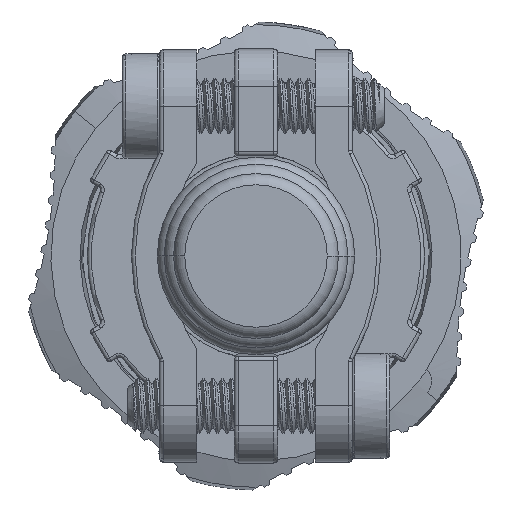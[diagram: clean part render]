
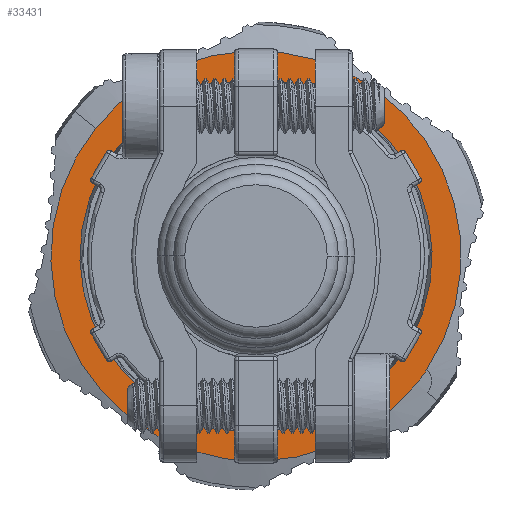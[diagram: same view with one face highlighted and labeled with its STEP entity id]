
A CAD part, front view. The second image highlights one B-rep face of the part: STEP entity #33431.
In plain terms, the highlighted planar face has unit normal (0, -1, 0).
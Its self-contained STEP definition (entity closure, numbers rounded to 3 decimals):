
#2819=CARTESIAN_POINT('',(0.,20.074,0.));
#2820=DIRECTION('',(0.,1.,0.));
#2821=DIRECTION('',(-0.782,0.,0.623));
#2822=AXIS2_PLACEMENT_3D('',#2819,#2820,#2821);
#2824=CARTESIAN_POINT('',(0.,20.074,0.));
#2825=DIRECTION('',(0.,1.,0.));
#2826=DIRECTION('',(0.835,0.,-0.551));
#2827=AXIS2_PLACEMENT_3D('',#2824,#2825,#2826);
#2829=CARTESIAN_POINT('',(0.,20.074,0.));
#2830=DIRECTION('',(0.,1.,0.));
#2831=DIRECTION('',(0.782,0.,-0.623));
#2832=AXIS2_PLACEMENT_3D('',#2829,#2830,#2831);
#2834=CARTESIAN_POINT('',(0.,20.074,0.));
#2835=DIRECTION('',(0.,-1.,0.));
#2836=DIRECTION('',(-0.782,0.,0.623));
#2837=AXIS2_PLACEMENT_3D('',#2834,#2835,#2836);
#2839=CARTESIAN_POINT('',(0.,20.074,0.));
#2840=DIRECTION('',(0.,-1.,0.));
#2841=DIRECTION('',(0.782,0.,-0.623));
#2842=AXIS2_PLACEMENT_3D('',#2839,#2840,#2841);
#25966=CARTESIAN_POINT('',(7.352,20.074,
-5.857));
#25967=VERTEX_POINT('',#25966);
#25968=CARTESIAN_POINT('',(-7.352,20.074,
5.857));
#25969=VERTEX_POINT('',#25968);
#25970=CARTESIAN_POINT('',(-8.564,20.074,
6.823));
#25971=CARTESIAN_POINT('',(9.14,20.074,
-6.03));
#25972=VERTEX_POINT('',#25970);
#25973=VERTEX_POINT('',#25971);
#25974=CARTESIAN_POINT('',(8.564,20.074,
-6.823));
#25975=VERTEX_POINT('',#25974);
#33414=CARTESIAN_POINT('',(0.001,20.074,
0.001));
#33415=DIRECTION('',(0.,1.,0.));
#33416=DIRECTION('',(0.782,0.,-0.623));
#33417=AXIS2_PLACEMENT_3D('',#33414,#33415,#33416);
#33418=PLANE('',#33417);
#33420=ORIENTED_EDGE('',*,*,#33419,.T.);
#33422=ORIENTED_EDGE('',*,*,#33421,.T.);
#33424=ORIENTED_EDGE('',*,*,#33423,.T.);
#33425=EDGE_LOOP('',(#33420,#33422,#33424));
#33426=FACE_OUTER_BOUND('',#33425,.F.);
#33427=ORIENTED_EDGE('',*,*,#33407,.T.);
#33428=ORIENTED_EDGE('',*,*,#33396,.T.);
#33429=EDGE_LOOP('',(#33427,#33428));
#33430=FACE_BOUND('',#33429,.F.);
#2823=CIRCLE('',#2822,10.95);
#2828=CIRCLE('',#2827,10.95);
#2833=CIRCLE('',#2832,10.95);
#2838=CIRCLE('',#2837,9.4);
#2843=CIRCLE('',#2842,9.4);
#33396=EDGE_CURVE('',#25967,#25969,#2843,.T.);
#33407=EDGE_CURVE('',#25969,#25967,#2838,.T.);
#33419=EDGE_CURVE('',#25972,#25973,#2823,.T.);
#33421=EDGE_CURVE('',#25973,#25975,#2828,.T.);
#33423=EDGE_CURVE('',#25975,#25972,#2833,.T.);
#33431=ADVANCED_FACE('',(#33426,#33430),#33418,.F.);
